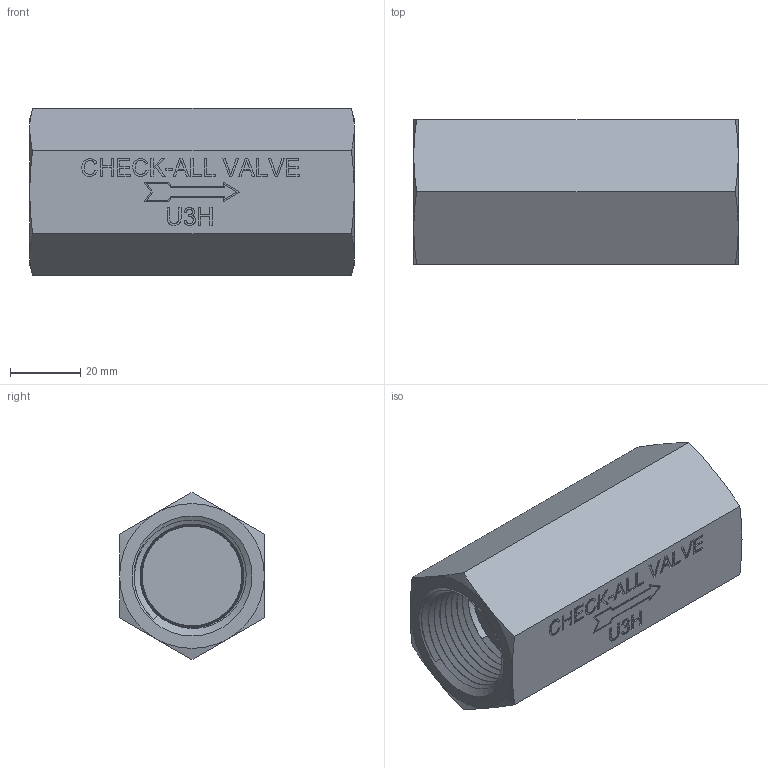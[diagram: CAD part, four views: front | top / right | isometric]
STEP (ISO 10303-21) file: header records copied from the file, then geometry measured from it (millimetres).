
FILE_DESCRIPTION( ( 'Unknown' ), '1' );
FILE_NAME( 'Y:/ENGR/3D Solid Edge Models/U3/U3-PRT/U3H.stp', 'Unknown', ( 'Unknown' ), ( 'Unknown' ), 'PSStep 14.0', 'Unknown', ' ' );
FILE_SCHEMA( ( 'AUTOMOTIVE_DESIGN { 1 0 10303 214 1 1 1 1 }' ) );
Length unit declared in the file: inch
Products named in the file (1): 1
Bounding box: 92.53 x 41.27 x 47.66 mm (x, y, z)
Volume: 108005.6 mm3; surface area: 22444.8 mm2
Topology: 1 solids, 1 shells, 224 faces, 582 edges, 383 vertices
Faces by surface type: extrusion 138, plane 57, cone 16, bspline 13
Entity records: 17806 total; most frequent: CARTESIAN_POINT 10967, ORIENTED_EDGE 1156, DIRECTION 670, EDGE_CURVE 578, VECTOR 490, VERTEX_POINT 381, LINE 352, B_SPLINE_CURVE_WITH_KNOTS 348
